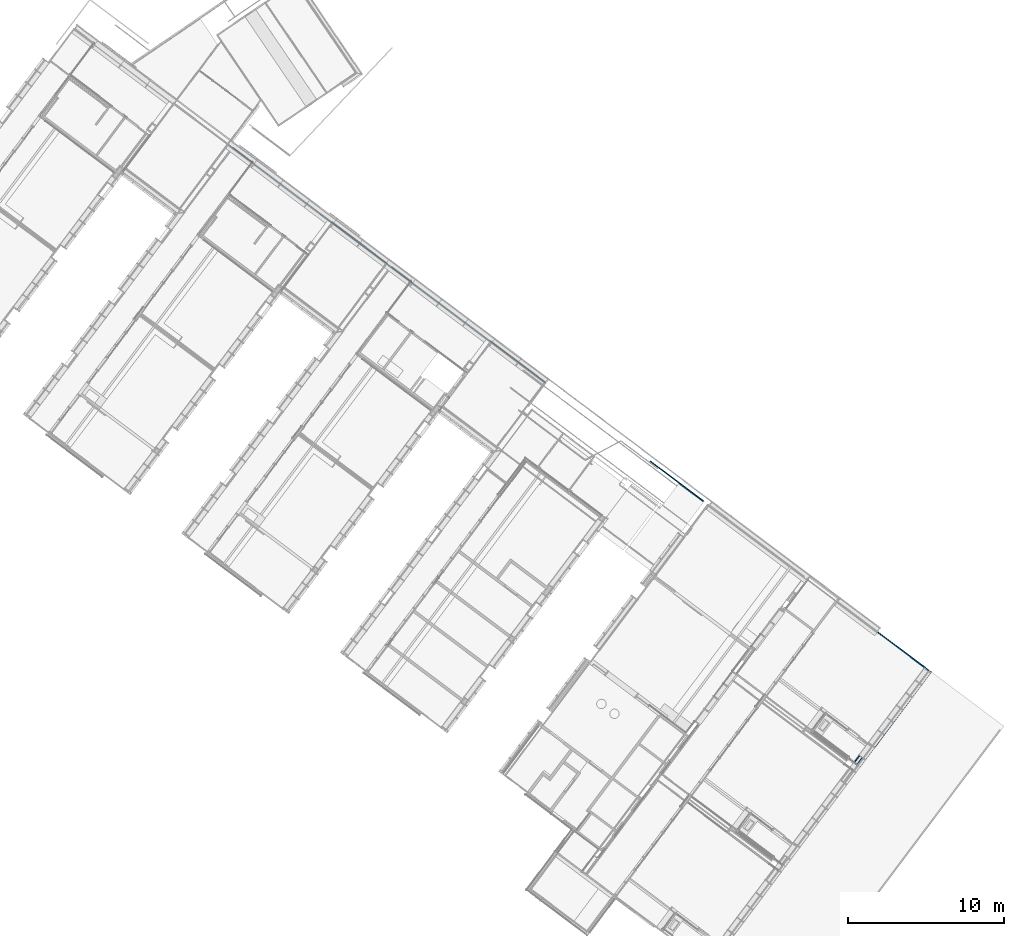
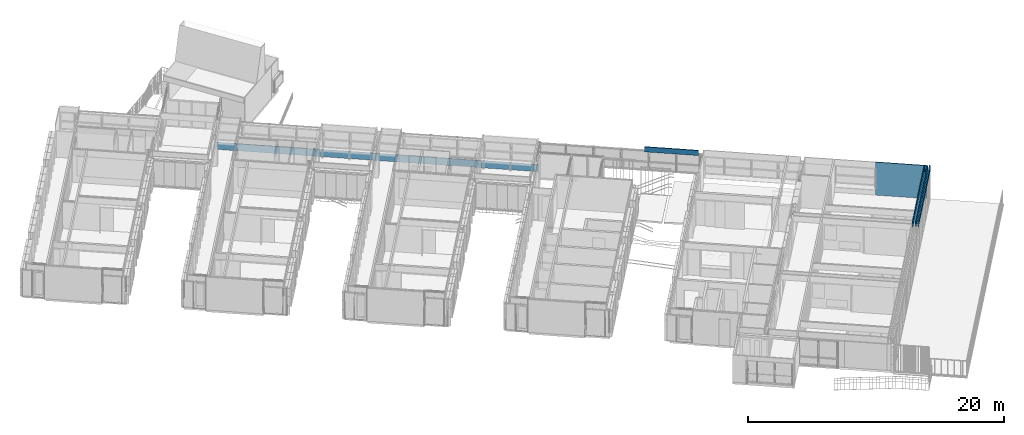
# One storey, part 133 of 243: 6 walls.
"""IFC2X3 building model written with IfcOpenShell, lengths in metres."""

from ifc_helpers import new_model, entity, si_unit, converted_unit, derived_unit, direction, frame, frame_2d, origin, place, context, subcontext, project, spatial, rectangle, extrude, material, layer, layer_set, layer_usage, type_object, element, save


model = new_model("IFC2X3")

# Units and contexts
model_context = context("Model", 3, precision=1e-05, world=origin(), true_north=direction((6.123031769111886e-17, 1.0)))
body_context = subcontext(model_context, "Body", "Model", "MODEL_VIEW")
ifc_project = project(units=[si_unit("LENGTHUNIT", "METRE"), si_unit("AREAUNIT", "SQUARE_METRE"), si_unit("VOLUMEUNIT", "CUBIC_METRE"), converted_unit("PLANEANGLEUNIT", "DEGREE", entity("IfcRatioMeasure", 0.017453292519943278), si_unit("PLANEANGLEUNIT", "RADIAN"), dimensions=[0, 0, 0, 0, 0, 0, 0]), si_unit("MASSUNIT", "GRAM", prefix="KILO"), derived_unit("MASSDENSITYUNIT", [(si_unit("MASSUNIT", "GRAM", prefix="KILO"), 1), (si_unit("LENGTHUNIT", "METRE"), -3)]), derived_unit("IONCONCENTRATIONUNIT", [(si_unit("MASSUNIT", "GRAM", prefix="KILO"), 1), (si_unit("LENGTHUNIT", "METRE"), -3)]), derived_unit("MOMENTOFINERTIAUNIT", [(si_unit("LENGTHUNIT", "METRE"), 4)]), si_unit("TIMEUNIT", "SECOND"), si_unit("FREQUENCYUNIT", "HERTZ"), si_unit("THERMODYNAMICTEMPERATUREUNIT", "DEGREE_CELSIUS"), derived_unit("THERMALTRANSMITTANCEUNIT", [(si_unit("MASSUNIT", "GRAM", prefix="KILO"), 1), (si_unit("THERMODYNAMICTEMPERATUREUNIT", "KELVIN"), -1), (si_unit("TIMEUNIT", "SECOND"), -3)]), derived_unit("THERMALCONDUCTANCEUNIT", [(si_unit("MASSUNIT", "GRAM", prefix="KILO"), 1), (si_unit("THERMODYNAMICTEMPERATUREUNIT", "KELVIN"), -1), (si_unit("TIMEUNIT", "SECOND"), -3), (si_unit("LENGTHUNIT", "METRE"), 1)]), derived_unit("VOLUMETRICFLOWRATEUNIT", [(si_unit("LENGTHUNIT", "METRE"), 3), (si_unit("TIMEUNIT", "SECOND"), -1)]), derived_unit("MASSFLOWRATEUNIT", [(si_unit("MASSUNIT", "GRAM", prefix="KILO"), 1), (si_unit("TIMEUNIT", "SECOND"), -1)]), derived_unit("ROTATIONALFREQUENCYUNIT", [(si_unit("TIMEUNIT", "SECOND"), -1)]), si_unit("ELECTRICCURRENTUNIT", "AMPERE"), si_unit("ELECTRICVOLTAGEUNIT", "VOLT"), si_unit("POWERUNIT", "WATT"), si_unit("FORCEUNIT", "NEWTON", prefix="KILO"), si_unit("ILLUMINANCEUNIT", "LUX"), si_unit("LUMINOUSFLUXUNIT", "LUMEN"), si_unit("LUMINOUSINTENSITYUNIT", "CANDELA"), derived_unit("USERDEFINED", [(si_unit("MASSUNIT", "GRAM", prefix="KILO"), -1), (si_unit("LENGTHUNIT", "METRE"), -2), (si_unit("TIMEUNIT", "SECOND"), 3), (si_unit("LUMINOUSFLUXUNIT", "LUMEN"), 1)]), derived_unit("USERDEFINED", [(si_unit("MASSUNIT", "GRAM", prefix="KILO"), 1), (si_unit("TIMEUNIT", "SECOND"), -3), (si_unit("LENGTHUNIT", "METRE"), 3), (si_unit("ELECTRICCURRENTUNIT", "AMPERE"), -2)]), derived_unit("SOUNDPOWERUNIT", [(si_unit("MASSUNIT", "GRAM", prefix="KILO"), 1), (si_unit("TIMEUNIT", "SECOND"), -3), (si_unit("LENGTHUNIT", "METRE"), 2)]), derived_unit("SOUNDPRESSUREUNIT", [(si_unit("MASSUNIT", "GRAM", prefix="KILO"), 1), (si_unit("LENGTHUNIT", "METRE"), -1), (si_unit("TIMEUNIT", "SECOND"), -2)]), derived_unit("LINEARVELOCITYUNIT", [(si_unit("LENGTHUNIT", "METRE"), 1), (si_unit("TIMEUNIT", "SECOND"), -1)]), si_unit("PRESSUREUNIT", "PASCAL"), derived_unit("USERDEFINED", [(si_unit("MASSUNIT", "GRAM", prefix="KILO"), 1), (si_unit("LENGTHUNIT", "METRE"), -2), (si_unit("TIMEUNIT", "SECOND"), -2)]), derived_unit("LINEARFORCEUNIT", [(si_unit("MASSUNIT", "GRAM", prefix="KILO"), 1), (si_unit("TIMEUNIT", "SECOND"), -2)]), derived_unit("PLANARFORCEUNIT", [(si_unit("MASSUNIT", "GRAM", prefix="KILO"), 1), (si_unit("LENGTHUNIT", "METRE"), -1), (si_unit("TIMEUNIT", "SECOND"), -2)]), derived_unit("SPECIFICHEATCAPACITYUNIT", [(si_unit("THERMODYNAMICTEMPERATUREUNIT", "KELVIN"), -1), (si_unit("LENGTHUNIT", "METRE"), 2), (si_unit("TIMEUNIT", "SECOND"), -2)]), derived_unit("HEATINGVALUEUNIT", [(si_unit("LENGTHUNIT", "METRE"), 2), (si_unit("TIMEUNIT", "SECOND"), -2)]), derived_unit("VAPORPERMEABILITYUNIT", [(si_unit("LENGTHUNIT", "METRE"), -1), (si_unit("TIMEUNIT", "SECOND"), 1)]), derived_unit("DYNAMICVISCOSITYUNIT", [(si_unit("MASSUNIT", "GRAM", prefix="KILO"), 1), (si_unit("TIMEUNIT", "SECOND"), -1), (si_unit("LENGTHUNIT", "METRE"), -1)]), derived_unit("THERMALEXPANSIONCOEFFICIENTUNIT", [(si_unit("THERMODYNAMICTEMPERATUREUNIT", "KELVIN"), -1)]), derived_unit("MODULUSOFELASTICITYUNIT", [(si_unit("MASSUNIT", "GRAM", prefix="KILO"), 1), (si_unit("LENGTHUNIT", "METRE"), -1), (si_unit("TIMEUNIT", "SECOND"), -2)]), derived_unit("ISOTHERMALMOISTURECAPACITYUNIT", [(si_unit("LENGTHUNIT", "METRE"), 3), (si_unit("MASSUNIT", "GRAM", prefix="KILO"), -1)]), derived_unit("MOISTUREDIFFUSIVITYUNIT", [(si_unit("TIMEUNIT", "SECOND"), -1), (si_unit("LENGTHUNIT", "METRE"), 2)])], contexts=[model_context])

# Site, building, storey
site_placement = place(None, frame((0.0, 0.0, 235.0), z_axis=(0.0, 0.0, 1.0), x_axis=(-0.7996477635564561, 0.6004693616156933, 0.0)))
site = spatial("IfcSite", under=ifc_project, at=site_placement, Name="Default", CompositionType="ELEMENT")
building_placement = place(site_placement, origin())
building = spatial("IfcBuilding", under=site, at=building_placement, CompositionType="ELEMENT")
storey_placement = place(building_placement, origin())
storey = spatial("IfcBuildingStorey", under=building, at=storey_placement, Name="P0- Escola", CompositionType="ELEMENT", Elevation=0.0)

# Walls
ifc_material_1 = material(Name="_Ceràmica- ENV")
ifc_layer_1 = layer(ifc_material_1, 0.09)
ifc_layer_set_1 = layer_set([ifc_layer_1], Name="Muro básico:ENV- Ceràmic- 9 cm")
ifc_layer_usage_1 = layer_usage(ifc_layer_set_1, "AXIS2", "POSITIVE", -0.045)
wall_type_1 = type_object("IfcWallType", Name="Muro básico:ENV- Ceràmic- 9 cm", PredefinedType="STANDARD", material=ifc_layer_set_1)
wall_1_placement = place(storey_placement, frame((5.985147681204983, -42.0401917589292, 2.6), z_axis=(0.0, 0.0, 1.0), x_axis=(0.0, 1.0, 0.0)))
element("IfcWallStandardCase", 1, at=wall_1_placement, inside=storey, type_object=wall_type_1, material=ifc_layer_usage_1, Name="Muro básico:ENV- Ceràmic- 9 cm", ObjectType="Muro básico:ENV- Ceràmic- 9 cm", context=body_context, shape_type="SweptSolid", body=[
    extrude(rectangle(XDim=7.649999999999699, YDim=0.08999999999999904, at=frame_2d((3.8249999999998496, 0.0), x_axis=(-1.0, 0.0))), origin(), (0.0, 0.0, 1.0), 0.5500000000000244),
])
ifc_material_2 = material(Name="_Guix laminat- ENV")
ifc_layer_2 = layer(ifc_material_2, 0.02)
ifc_material_3 = material(Name="_Aillament")
ifc_layer_3 = layer(ifc_material_3, 0.045)
ifc_layer_set_2 = layer_set([ifc_layer_2, ifc_layer_3], Name="Muro básico:REV- Guix Laminat Extradossat- Aillament- T1- 6,5 cm")
ifc_layer_usage_2 = layer_usage(ifc_layer_set_2, "AXIS2", "NEGATIVE", 0.032499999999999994)
wall_type_2 = type_object("IfcWallType", Name="Muro básico:REV- Guix Laminat Extradossat- Aillament- T1- 6,5 cm", PredefinedType="STANDARD", material=ifc_layer_set_2)
wall_2_placement = place(storey_placement, frame((36.65514768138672, -42.00769175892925, 0.0)))
element("IfcWallStandardCase", 2, at=wall_2_placement, inside=storey, type_object=wall_type_2, material=ifc_layer_usage_2, Name="Muro básico:REV- Guix Laminat Extradossat- Aillament- T1- 6,5 cm", ObjectType="Muro básico:REV- Guix Laminat Extradossat- Aillament- T1- 6,5 cm", context=body_context, shape_type="SweptSolid", body=[
    extrude(rectangle(XDim=25.342145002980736, YDim=0.06500000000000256, at=frame_2d((12.671072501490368, -1.0061396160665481e-16), x_axis=(-1.0, 0.0))), origin(), (0.0, 0.0, 1.0), 0.670000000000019),
])
ifc_layer_usage_3 = layer_usage(ifc_layer_set_2, "AXIS2", "POSITIVE", -0.032499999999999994)
wall_3_placement = place(storey_placement, frame((28.280147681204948, -42.007691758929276, 2.600000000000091), z_axis=(0.0, 0.0, 1.0), x_axis=(-1.0, 0.0, 0.0)))
element("IfcWallStandardCase", 3, at=wall_3_placement, inside=storey, type_object=wall_type_2, material=ifc_layer_usage_3, Name="Muro básico:REV- Guix Laminat Extradossat- Aillament- T1- 6,5 cm", ObjectType="Muro básico:REV- Guix Laminat Extradossat- Aillament- T1- 6,5 cm", context=body_context, shape_type="SweptSolid", body=[
    extrude(rectangle(XDim=4.269999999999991, YDim=0.06500000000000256, at=frame_2d((2.1349999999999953, 0.0), x_axis=(-1.0, 0.0))), origin(), (0.0, 0.0, 1.0), 0.48499999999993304),
])
wall_4_placement = place(storey_placement, frame((6.030147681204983, -42.00769175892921, 0.0)))
element("IfcWallStandardCase", 4, at=wall_4_placement, inside=storey, type_object=wall_type_2, material=ifc_layer_usage_2, Name="Muro básico:REV- Guix Laminat Extradossat- Aillament- T1- 6,5 cm", ObjectType="Muro básico:REV- Guix Laminat Extradossat- Aillament- T1- 6,5 cm", context=body_context, shape_type="SweptSolid", body=[
    extrude(rectangle(XDim=4.014999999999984, YDim=0.06500000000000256, at=frame_2d((2.007499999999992, -2.1163626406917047e-16), x_axis=(-1.0, 0.0))), origin(), (0.0, 0.0, 1.0), 3.150000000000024),
])
wall_5_placement = place(storey_placement, frame((6.21764768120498, -41.97519175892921, 2.52), z_axis=(0.0, 0.0, 1.0), x_axis=(0.0, 1.0, 0.0)))
element("IfcWallStandardCase", 5, at=wall_5_placement, inside=storey, type_object=wall_type_2, material=ifc_layer_usage_3, Name="Muro básico:REV- Guix Laminat Extradossat- Aillament- T1- 6,5 cm", ObjectType="Muro básico:REV- Guix Laminat Extradossat- Aillament- T1- 6,5 cm", context=body_context, shape_type="SweptSolid", body=[
    extrude(rectangle(XDim=7.584999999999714, YDim=0.06500000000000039, at=frame_2d((3.792499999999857, 0.0), x_axis=(-1.0, 0.0))), origin(), (0.0, 0.0, 1.0), 0.6300000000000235),
])
ifc_material_4 = material(Name="_Alumini- T1- Perfil")
ifc_layer_4 = layer(ifc_material_4, 0.01)
ifc_layer_5 = layer(ifc_material_3, 0.06)
ifc_layer_set_3 = layer_set([ifc_layer_4, ifc_layer_5], Name="Muro básico:REV- Xapa + aillament")
ifc_layer_usage_4 = layer_usage(ifc_layer_set_3, "AXIS2", "NEGATIVE", 0.035)
wall_type_3 = type_object("IfcWallType", Name="Muro básico:REV- Xapa + aillament", PredefinedType="STANDARD", material=ifc_layer_set_3)
wall_6_placement = place(storey_placement, frame((5.780147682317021, -42.0401917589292, 2.6), z_axis=(0.0, 0.0, 1.0), x_axis=(0.0, 1.0, 0.0)))
element("IfcWallStandardCase", 6, at=wall_6_placement, inside=storey, type_object=wall_type_3, material=ifc_layer_usage_4, Name="Muro básico:REV- Xapa + aillament", ObjectType="Muro básico:REV- Xapa + aillament", context=body_context, shape_type="SweptSolid", body=[
    extrude(rectangle(XDim=7.649999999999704, YDim=0.06999999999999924, at=frame_2d((3.824999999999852, 0.0), x_axis=(-1.0, 0.0))), origin(), (0.0, 0.0, 1.0), 0.5500000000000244),
])

save(model, "model.ifc")
